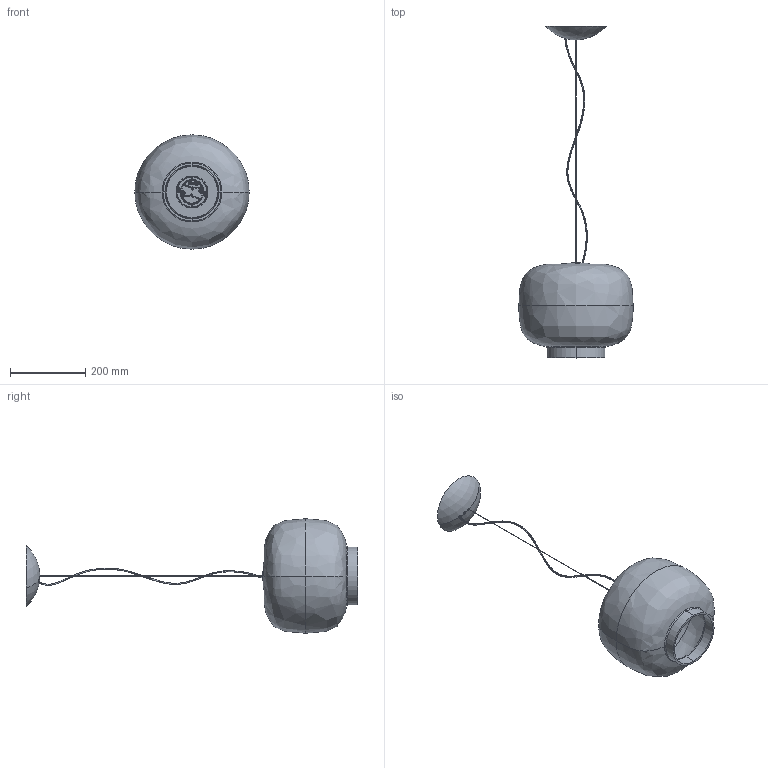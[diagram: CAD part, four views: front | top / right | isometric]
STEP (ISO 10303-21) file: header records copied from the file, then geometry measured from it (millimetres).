
FILE_DESCRIPTION (( 'STEP AP214' ), '1' );
FILE_NAME ('210_3_S_ME_3D.STEP', '2021-05-19T12:07:34', ( '' ), ( '' ), 'SwSTEP 2.0', 'SolidWorks 2021', '' );
FILE_SCHEMA (( 'AUTOMOTIVE_DESIGN' ));
Length unit declared in the file: millimetre
Products named in the file (1): 210_3_S_ME_3D
Bounding box: 304 x 882.18 x 304 mm (x, y, z)
Volume: 1794749.9 mm3; surface area: 630774.8 mm2
Topology: 4 solids, 4 shells, 1361 faces, 3349 edges, 1931 vertices
Faces by surface type: bspline 503, torus 219, cylinder 207, plane 199, cone 142, sphere 91
Entity records: 68245 total; most frequent: CARTESIAN_POINT 25596, ORIENTED_EDGE 6502, DIRECTION 5003, EDGE_CURVE 3251, AXIS2_PLACEMENT_3D 2224, VERTEX_POINT 1923, EDGE_LOOP 1400, UNCERTAINTY_MEASURE_WITH_UNIT 1367
